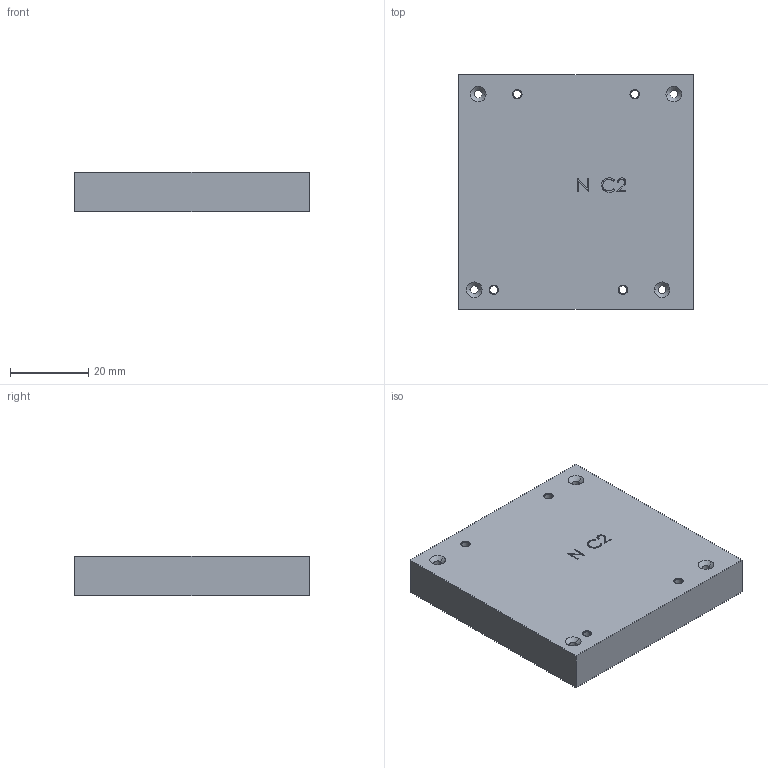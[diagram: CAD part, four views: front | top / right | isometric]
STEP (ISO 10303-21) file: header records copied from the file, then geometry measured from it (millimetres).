
FILE_DESCRIPTION (( 'STEP AP214' ), '1' );
FILE_NAME ('C2.STEP', '2016-02-27T11:15:32', ( '' ), ( '' ), 'SwSTEP 2.0', 'SolidWorks 2012', '' );
FILE_SCHEMA (( 'AUTOMOTIVE_DESIGN' ));
Length unit declared in the file: millimetre
Products named in the file (1): C2
Bounding box: 60 x 60 x 10 mm (x, y, z)
Volume: 35728.6 mm3; surface area: 10045.6 mm2
Topology: 1 solids, 1 shells, 90 faces, 223 edges, 138 vertices
Faces by surface type: cone 32, plane 27, cylinder 16, bspline 15
Entity records: 3611 total; most frequent: CARTESIAN_POINT 1467, ORIENTED_EDGE 446, DIRECTION 409, EDGE_CURVE 223, AXIS2_PLACEMENT_3D 140, VERTEX_POINT 138, VECTOR 129, LINE 129
